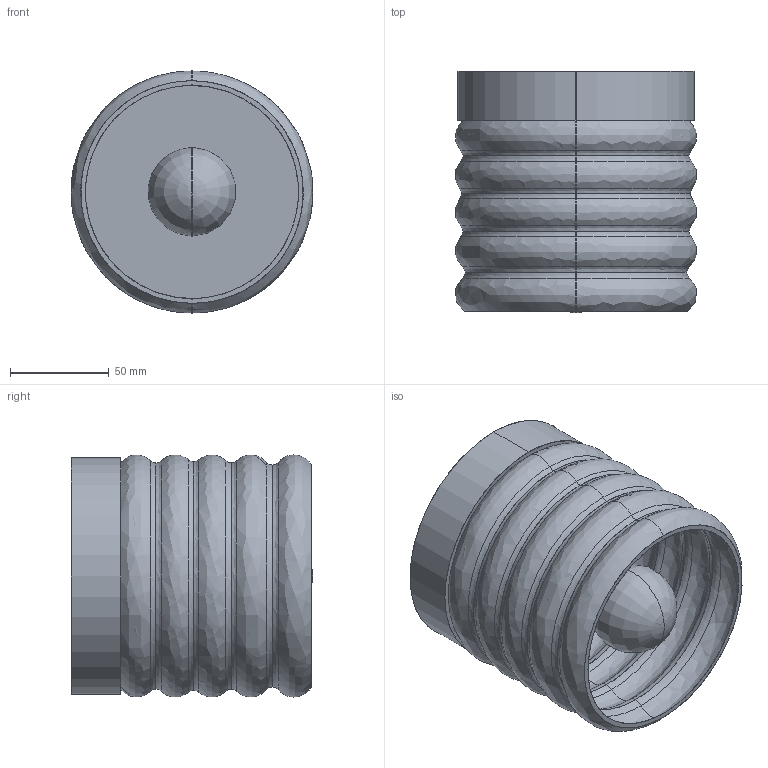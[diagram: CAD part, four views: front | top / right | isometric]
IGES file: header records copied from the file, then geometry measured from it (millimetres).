
Start section: SolidWorks IGES file using analytic representation for surfaces
Global section: file name: F:\燠隴矨\3D\2026-6\Ridge Artisan Ceiling Lamp.IGS,15; native system: HSolidWorks 2022; preprocessor: SolidWorks 2022; author: MyPC; date: 260612.190832; units: millimetre
Bounding box: 122.05 x 122.12 x 122.57 mm (x, y, z)
Surface area: 158857.7 mm2 (no closed solid volume)
Topology: 0 solids, 0 shells, 129 faces, 1226 edges, 1223 vertices
Faces by surface type: bspline 79, revolution 50
